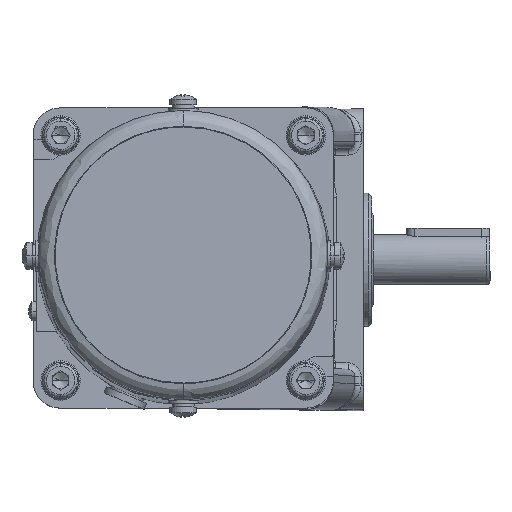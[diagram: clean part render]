
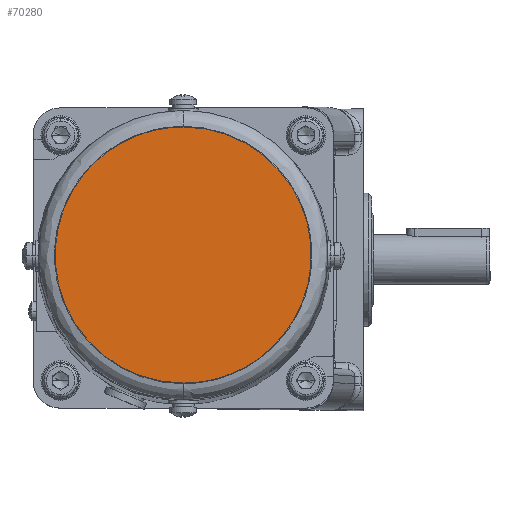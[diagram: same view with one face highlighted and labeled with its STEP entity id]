
A CAD part, front view. The second image highlights one B-rep face of the part: STEP entity #70280.
In plain terms, the highlighted planar face has unit normal (0, -1, 0.005) as drawn and (-1, 0, 0) by its records, which use the part's own axes.
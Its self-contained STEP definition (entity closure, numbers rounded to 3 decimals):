
#860 = ORIENTED_EDGE ( 'NONE', *, *, #15297, .F. ) ;
#9439 = DIRECTION ( 'NONE',  ( 1., 0., 0. ) ) ;
#9983 = CARTESIAN_POINT ( 'NONE',  ( -112.349, 38.498, 188.502 ) ) ;
#10078 = VERTEX_POINT ( 'NONE', #9983 ) ;
#10569 = EDGE_LOOP ( 'NONE', ( #78041, #860 ) ) ;
#15297 = EDGE_CURVE ( 'NONE', #10078, #61540, #48865, .T. ) ;
#17355 = CARTESIAN_POINT ( 'NONE',  ( -112.349, -38.302, 188.502 ) ) ;
#18147 = FACE_OUTER_BOUND ( 'NONE', #10569, .T. ) ;
#32953 = CARTESIAN_POINT ( 'NONE',  ( -112.349, 38.498, 188.502 ) ) ;
#37737 = CARTESIAN_POINT ( 'NONE',  ( -112.349, 38.498, 265.302 ) ) ;
#42350 = PLANE ( 'NONE',  #67829 ) ;
#44380 = CARTESIAN_POINT ( 'NONE',  ( -112.349, -38.302, 188.502 ) ) ;
#44721 =( BOUNDED_CURVE ( )  B_SPLINE_CURVE ( 3, ( #78871, #52649, #72485, #32953 ),
 .UNSPECIFIED., .F., .F. ) 
 B_SPLINE_CURVE_WITH_KNOTS ( ( 4, 4 ),
 ( 0., 1. ),
 .UNSPECIFIED. ) 
 CURVE ( )  GEOMETRIC_REPRESENTATION_ITEM ( )  RATIONAL_B_SPLINE_CURVE ( ( 1., 0.333, 0.333, 1. ) ) 
 REPRESENTATION_ITEM ( '' )  );
#48865 =( BOUNDED_CURVE ( )  B_SPLINE_CURVE ( 3, ( #77275, #37737, #83939, #44380 ),
 .UNSPECIFIED., .F., .F. ) 
 B_SPLINE_CURVE_WITH_KNOTS ( ( 4, 4 ),
 ( 0., 1. ),
 .UNSPECIFIED. ) 
 CURVE ( )  GEOMETRIC_REPRESENTATION_ITEM ( )  RATIONAL_B_SPLINE_CURVE ( ( 1., 0.333, 0.333, 1. ) ) 
 REPRESENTATION_ITEM ( '' )  );
#52649 = CARTESIAN_POINT ( 'NONE',  ( -112.349, -38.302, 111.702 ) ) ;
#52748 = EDGE_CURVE ( 'NONE', #61540, #10078, #44721, .T. ) ;
#55652 = DIRECTION ( 'NONE',  ( 0., 0., -1. ) ) ;
#61540 = VERTEX_POINT ( 'NONE', #17355 ) ;
#67829 = AXIS2_PLACEMENT_3D ( 'NONE', #75234, #9439, #55652 ) ;
#70280 = ADVANCED_FACE ( 'NONE', ( #18147 ), #42350, .F. ) ;
#72485 = CARTESIAN_POINT ( 'NONE',  ( -112.349, 38.498, 111.702 ) ) ;
#75234 = CARTESIAN_POINT ( 'NONE',  ( -112.349, 0.098, 188.502 ) ) ;
#77275 = CARTESIAN_POINT ( 'NONE',  ( -112.349, 38.498, 188.502 ) ) ;
#78041 = ORIENTED_EDGE ( 'NONE', *, *, #52748, .F. ) ;
#78871 = CARTESIAN_POINT ( 'NONE',  ( -112.349, -38.302, 188.502 ) ) ;
#83939 = CARTESIAN_POINT ( 'NONE',  ( -112.349, -38.302, 265.302 ) ) ;
